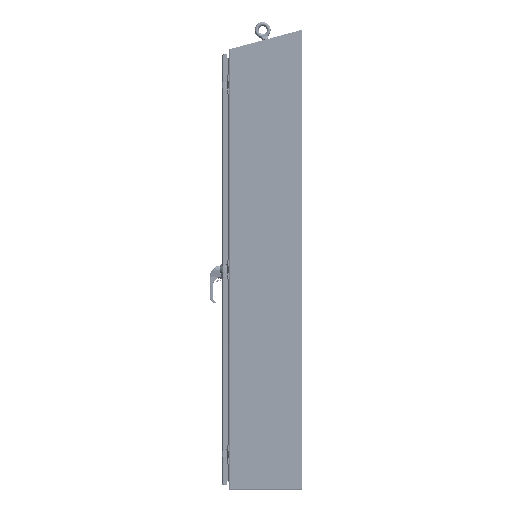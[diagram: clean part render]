
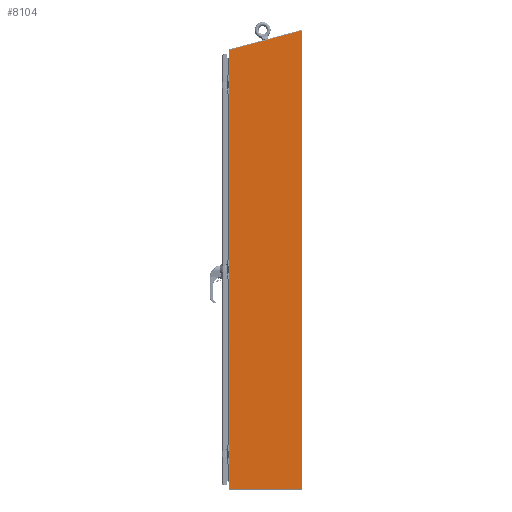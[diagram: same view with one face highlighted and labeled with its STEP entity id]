
A CAD part, top view. The second image highlights one B-rep face of the part: STEP entity #8104.
In plain terms, the highlighted planar face has unit normal (0, 0, 1) as drawn and (-1, 0, 0) by its records, which use the part's own axes.
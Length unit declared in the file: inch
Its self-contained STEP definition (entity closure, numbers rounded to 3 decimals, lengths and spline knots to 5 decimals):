
#6110=CARTESIAN_POINT('',(-2.3855,10.97925,-74.9587));
#6111=DIRECTION('',(-1.,0.,0.));
#6112=DIRECTION('',(0.,1.,0.));
#6113=AXIS2_PLACEMENT_3D('',#6110,#6111,#6112);
#6118=DIRECTION('',(0.,0.,-1.));
#6119=VECTOR('',#6118,74.8962);
#6120=CARTESIAN_POINT('',(-2.3855,11.0105,-0.0625));
#6121=LINE('',#6120,#6119);
#6125=CARTESIAN_POINT('',(-2.3855,10.948,-0.0625));
#6126=DIRECTION('',(-1.,0.,0.));
#6127=DIRECTION('',(0.,0.,1.));
#6128=AXIS2_PLACEMENT_3D('',#6125,#6126,#6127);
#6133=DIRECTION('',(0.,0.966,-0.259));
#6134=VECTOR('',#6133,12.07356);
#6135=CARTESIAN_POINT('',(-2.3855,-0.691,-71.86402));
#6136=LINE('',#6135,#6134);
#6168=CARTESIAN_POINT('',(-2.3855,-0.691,-71.86402));
#6173=DIRECTION('',(0.,0.,-1.));
#6174=VECTOR('',#6173,71.86402);
#6175=CARTESIAN_POINT('',(-2.3855,-0.691,0.));
#6176=LINE('',#6175,#6174);
#6224=DIRECTION('',(0.,-1.,0.));
#6225=VECTOR('',#6224,11.639);
#6226=CARTESIAN_POINT('',(-2.3855,10.948,0.));
#6227=LINE('',#6226,#6225);
#7798=CARTESIAN_POINT('',(-2.3855,-0.691,0.));
#7800=VERTEX_POINT('',#7798);
#7909=CARTESIAN_POINT('',(-2.3855,10.948,0.));
#7910=CARTESIAN_POINT('',(-2.3855,11.0105,-0.0625));
#7911=VERTEX_POINT('',#7909);
#7912=VERTEX_POINT('',#7910);
#7918=VERTEX_POINT('',#6168);
#7925=CARTESIAN_POINT('',(-2.3855,11.0105,-74.9587));
#7926=CARTESIAN_POINT('',(-2.3855,10.97117,-74.98889));
#7927=VERTEX_POINT('',#7925);
#7928=VERTEX_POINT('',#7926);
#8085=CARTESIAN_POINT('',(-2.3855,11.0105,0.));
#8086=DIRECTION('',(-1.,0.,0.));
#8087=DIRECTION('',(0.,-1.,0.));
#8088=AXIS2_PLACEMENT_3D('',#8085,#8086,#8087);
#8089=PLANE('',#8088);
#8091=ORIENTED_EDGE('',*,*,#8090,.F.);
#8093=ORIENTED_EDGE('',*,*,#8092,.F.);
#8095=ORIENTED_EDGE('',*,*,#8094,.F.);
#8097=ORIENTED_EDGE('',*,*,#8096,.T.);
#8099=ORIENTED_EDGE('',*,*,#8098,.T.);
#8101=ORIENTED_EDGE('',*,*,#8100,.T.);
#8102=EDGE_LOOP('',(#8091,#8093,#8095,#8097,#8099,#8101));
#8103=FACE_OUTER_BOUND('',#8102,.F.);
#6114=CIRCLE('',#6113,0.03125);
#6129=CIRCLE('',#6128,0.0625);
#8090=EDGE_CURVE('',#7927,#7928,#6114,.T.);
#8092=EDGE_CURVE('',#7912,#7927,#6121,.T.);
#8094=EDGE_CURVE('',#7911,#7912,#6129,.T.);
#8096=EDGE_CURVE('',#7911,#7800,#6227,.T.);
#8098=EDGE_CURVE('',#7800,#7918,#6176,.T.);
#8100=EDGE_CURVE('',#7918,#7928,#6136,.T.);
#8104=ADVANCED_FACE('',(#8103),#8089,.T.);
